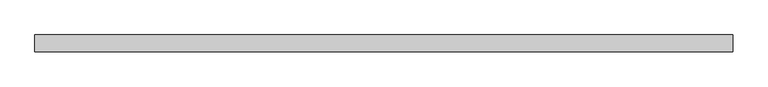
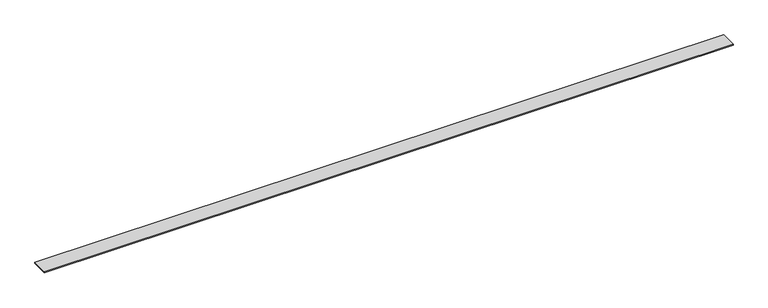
"""IFC4 building model written with IfcOpenShell, lengths in millimetres: furniture geometry, Geiger_GeigerOneCasegoods_WallTopTrimSingleSidedWall : 108Wx2.625Dx0.125H."""

from ifc_helpers import new_model, si_unit, origin, origin_with_axes, place, context, project, spatial, polyline, outline, extrude, source, transform, mapped, element, save


def furniture_480000b2(model_context):
    return source(origin(), model_context, "Body", "SweptSolid", [
        extrude(outline(polyline([(2743.2, 33.0), (2743.2, -33.0), (0.0, -33.0), (0.0, 33.0), (2743.2, 33.0)])), origin_with_axes(), (0.0, 0.0, 1.0), 3.2004),
    ])


if __name__ == "__main__":
    model = new_model("IFC4")
    model_context = context("Model", 3, world=origin())
    ifc_project = project(units=[si_unit("LENGTHUNIT", "METRE", prefix="MILLI")], contexts=[model_context])
    site = spatial("IfcSite", under=ifc_project)
    building = spatial("IfcBuilding", under=site)
    placement = place(None, origin())
    furniture_shape = furniture_480000b2(model_context)
    element("IfcFurniture", 1, ObjectType="Geiger_GeigerOneCasegoods_WallTopTrimSingleSidedWall : 108Wx2.625Dx0.125H", at=placement, inside=building, context=model_context, shape_type="MappedRepresentation", body=[
        mapped(furniture_shape, transform((0.0, 0.0, 0.0), x_axis=(1.0, 0.0, 0.0), y_axis=(0.0, 1.0, 0.0), z_axis=(0.0, 0.0, 1.0))),
    ])
    save(model, "model.ifc")
